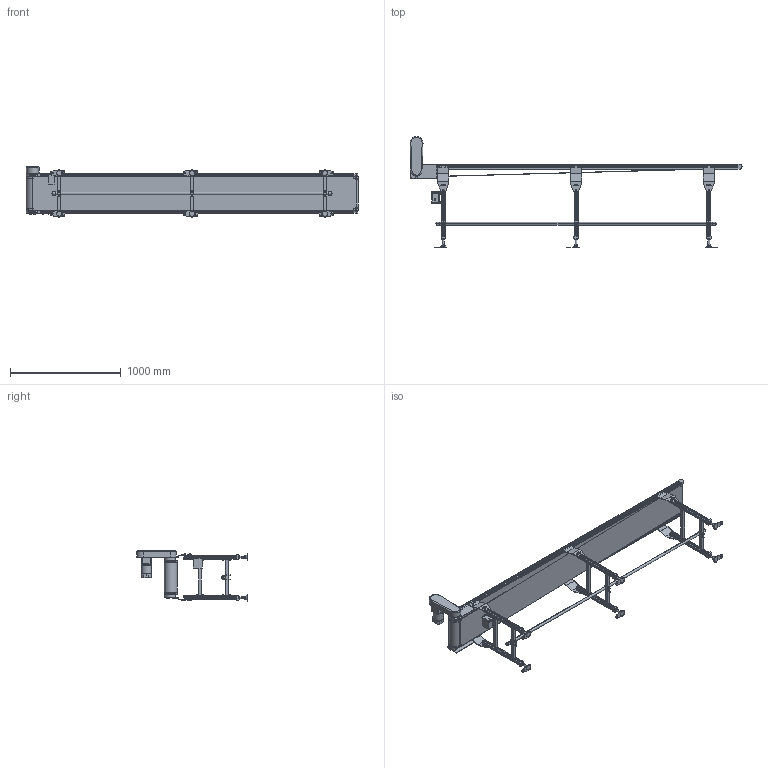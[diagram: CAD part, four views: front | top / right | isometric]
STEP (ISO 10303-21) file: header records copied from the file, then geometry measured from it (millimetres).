
FILE_DESCRIPTION( (''), '2;1');
FILE_NAME ('MB23-OD-309-300-300-L-K-100-O.stp','2025-02-17T10:57:04',(''),(''),'spGate 20.6.2 (****-****-****-****)','','');
FILE_SCHEMA (('AUTOMOTIVE_DESIGN'));
Length unit declared in the file: millimetre
Products named in the file (60): NewModel; MB23-OD-300-3000-L; TEMP_X_T-prt0; TEMP_X_T-prt1; TEMP_X_T-prt2; TEMP_X_T-prt3; TEMP_X_T-prt4; TEMP_X_T-prt5; TEMP_X_T-prt6; TEMP_X_T-prt7; TEMP_X_T-prt8; TEMP_X_T-prt9; TEMP_X_T-prt10; TEMP_X_T-prt11; TEMP_X_T-prt12; TEMP_X_T-prt13; TEMP_X_T-prt14; TEMP_X_T-prt15; TEMP_X_T-prt16; TEMP_X_T-prt17; TEMP_X_T-prt18; TEMP_X_T-prt19; TEMP_X_T-prt20; TEMP_X_T-prt21; TEMP_X_T-prt22; TEMP_X_T-prt23; TEMP_X_T-prt24; TEMP_X_T-prt25; TEMP_X_T-prt26; TEMP_X_T-prt27; TEMP_X_T-prt28; TEMP_X_T-prt29; TEMP_X_T-prt30; TEMP_X_T-prt31; TEMP_X_T-prt32; TEMP_X_T-prt33; TEMP_X_T-prt34; TEMP_X_T-prt35; TEMP_X_T-prt36; TEMP_X_T-prt37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
Assembly tree (59 placements, depth 3):
  NewModel
    MB23-OD-300-3000-L
      TEMP_X_T-prt0
      TEMP_X_T-prt1
      TEMP_X_T-prt2
      TEMP_X_T-prt3
      TEMP_X_T-prt4
      TEMP_X_T-prt5
      TEMP_X_T-prt6
      TEMP_X_T-prt7
      TEMP_X_T-prt8
      TEMP_X_T-prt9
      TEMP_X_T-prt10
      TEMP_X_T-prt11
      TEMP_X_T-prt12
      TEMP_X_T-prt13
      TEMP_X_T-prt14
      TEMP_X_T-prt15
      TEMP_X_T-prt16
      TEMP_X_T-prt17
      TEMP_X_T-prt18
      TEMP_X_T-prt19
      TEMP_X_T-prt20
      TEMP_X_T-prt21
      TEMP_X_T-prt22
      TEMP_X_T-prt23
      TEMP_X_T-prt24
      TEMP_X_T-prt25
      TEMP_X_T-prt26
      TEMP_X_T-prt27
      TEMP_X_T-prt28
      TEMP_X_T-prt29
      TEMP_X_T-prt30
      TEMP_X_T-prt31
      TEMP_X_T-prt32
      TEMP_X_T-prt33
      TEMP_X_T-prt34
      TEMP_X_T-prt35
      TEMP_X_T-prt36
      TEMP_X_T-prt37
      TEMP_X_T-prt38
      TEMP_X_T-prt39
      TEMP_X_T-prt40
      TEMP_X_T-prt41
      TEMP_X_T-prt42
      TEMP_X_T-prt43
      TEMP_X_T-prt44
      TEMP_X_T-prt45
      TEMP_X_T-prt46
      TEMP_X_T-prt47
      TEMP_X_T-prt48
      TEMP_X_T-prt49
      TEMP_X_T-prt50
      TEMP_X_T-prt51
      TEMP_X_T-prt52
      TEMP_X_T-prt53
      TEMP_X_T-prt54
      TEMP_X_T-prt55
      TEMP_X_T-prt56
      TEMP_X_T-prt57
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Bounding box: 3002.15 x 1001.79 x 453.2 mm (x, y, z)
Volume: 20337806.1 mm3; surface area: 9148036.8 mm2
Topology: 58 solids, 58 shells, 2620 faces, 6574 edges, 4248 vertices
Faces by surface type: plane 1840, cylinder 613, bspline 167
Entity records: 135811 total; most frequent: CARTESIAN_POINT 18906, ORIENTED_EDGE 13124, DIRECTION 12439, COLOUR_RGB 9240, PRESENTATION_STYLE_ASSIGNMENT 9240, STYLED_ITEM 9240, EDGE_CURVE 6562, DRAUGHTING_PRE_DEFINED_CURVE_FONT 6562
